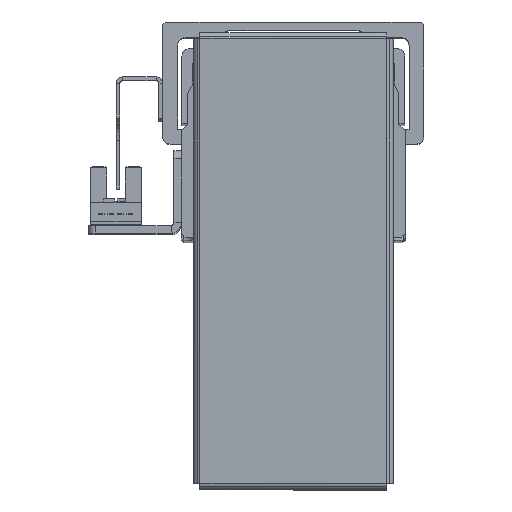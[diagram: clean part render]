
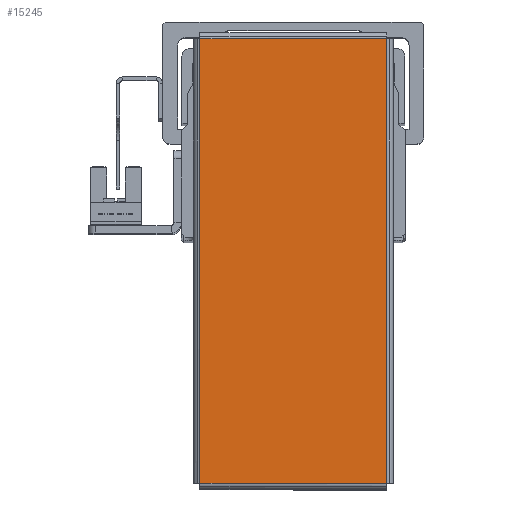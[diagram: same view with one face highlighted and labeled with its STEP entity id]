
A CAD part, top view. The second image highlights one B-rep face of the part: STEP entity #15245.
In plain terms, the highlighted planar face has unit normal (0, 0, 1) as drawn and (0, 0, -1) by its records, which use the part's own axes.
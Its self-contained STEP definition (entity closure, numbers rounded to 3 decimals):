
#40 = EDGE_LOOP ( 'NONE', ( #25707, #25710, #25765, #25703 ) ) ;
#13590 = VERTEX_POINT ( 'NONE', #30524 ) ;
#13613 = VERTEX_POINT ( 'NONE', #30523 ) ;
#13628 = VERTEX_POINT ( 'NONE', #30536 ) ;
#13632 = VERTEX_POINT ( 'NONE', #30514 ) ;
#15062 = CARTESIAN_POINT ( 'NONE',  ( -59.543, 25.013, -1. ) ) ;
#15078 = DIRECTION ( 'NONE',  ( 1., 0., 0. ) ) ;
#15245 = ADVANCED_FACE ( 'NONE', ( #18614 ), #21978, .F. ) ;
#18614 = FACE_OUTER_BOUND ( 'NONE', #40, .T. ) ;
#19166 = VECTOR ( 'NONE', #21354, 1000. ) ;
#19168 = VECTOR ( 'NONE', #21414, 1000. ) ;
#19192 = LINE ( 'NONE', #21358, #19168 ) ;
#19222 = LINE ( 'NONE', #21891, #19254 ) ;
#19254 = VECTOR ( 'NONE', #21863, 1000. ) ;
#19278 = LINE ( 'NONE', #21189, #19166 ) ;
#19300 = LINE ( 'NONE', #15062, #19410 ) ;
#19410 = VECTOR ( 'NONE', #15078, 1000. ) ;
#21189 = CARTESIAN_POINT ( 'NONE',  ( -59.513, -25.043, -1. ) ) ;
#21354 = DIRECTION ( 'NONE',  ( 0., 1., 0. ) ) ;
#21358 = CARTESIAN_POINT ( 'NONE',  ( 59.543, -25.013, -1. ) ) ;
#21414 = DIRECTION ( 'NONE',  ( -1., 0., 0. ) ) ;
#21863 = DIRECTION ( 'NONE',  ( 0., -1., 0. ) ) ;
#21891 = CARTESIAN_POINT ( 'NONE',  ( 59.513, 25.043, -1. ) ) ;
#21957 = CARTESIAN_POINT ( 'NONE',  ( 0., 0., -1. ) ) ;
#21959 = DIRECTION ( 'NONE',  ( 0., 0., 1. ) ) ;
#21978 = PLANE ( 'NONE',  #28779 ) ;
#21985 = DIRECTION ( 'NONE',  ( 1., 0., 0. ) ) ;
#22020 = EDGE_CURVE ( 'NONE', #13632, #13613, #19222, .T. ) ;
#22035 = EDGE_CURVE ( 'NONE', #13590, #13628, #19278, .T. ) ;
#22036 = EDGE_CURVE ( 'NONE', #13613, #13590, #19192, .T. ) ;
#22046 = EDGE_CURVE ( 'NONE', #13628, #13632, #19300, .T. ) ;
#25703 = ORIENTED_EDGE ( 'NONE', *, *, #22046, .T. ) ;
#25707 = ORIENTED_EDGE ( 'NONE', *, *, #22020, .T. ) ;
#25710 = ORIENTED_EDGE ( 'NONE', *, *, #22036, .T. ) ;
#25765 = ORIENTED_EDGE ( 'NONE', *, *, #22035, .T. ) ;
#28779 = AXIS2_PLACEMENT_3D ( 'NONE', #21957, #21959, #21985 ) ;
#30514 = CARTESIAN_POINT ( 'NONE',  ( 59.513, 25.013, -1. ) ) ;
#30523 = CARTESIAN_POINT ( 'NONE',  ( 59.513, -25.013, -1. ) ) ;
#30524 = CARTESIAN_POINT ( 'NONE',  ( -59.513, -25.013, -1. ) ) ;
#30536 = CARTESIAN_POINT ( 'NONE',  ( -59.513, 25.013, -1. ) ) ;
